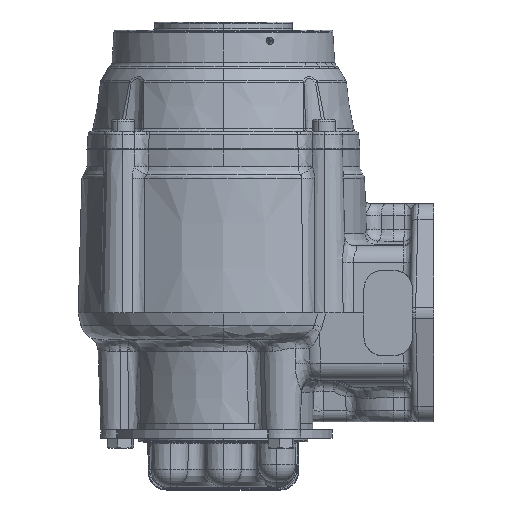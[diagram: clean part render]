
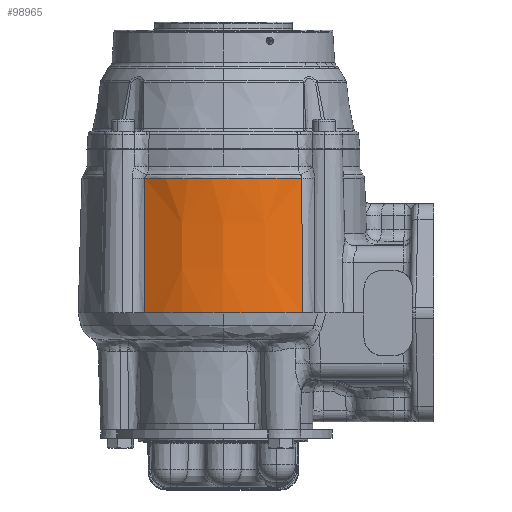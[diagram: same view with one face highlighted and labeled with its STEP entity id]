
A CAD part, left-side view. The second image highlights one B-rep face of the part: STEP entity #98965.
In plain terms, the highlighted conical face has half-angle 1.5 degrees and reference radius 76.073 mm.
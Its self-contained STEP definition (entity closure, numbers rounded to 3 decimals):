
#302 = ORIENTED_EDGE ( 'NONE', *, *, #74298, .F. ) ;
#3682 = DIRECTION ( 'NONE',  ( 1., 0., 0. ) ) ;
#5185 = CARTESIAN_POINT ( 'NONE',  ( 0.588, 151.447, 199.328 ) ) ;
#5788 = CARTESIAN_POINT ( 'NONE',  ( -0.79, 151.556, 153.156 ) ) ;
#7044 = DIRECTION ( 'NONE',  ( 0., 0., -1. ) ) ;
#15660 = CIRCLE ( 'NONE', #102587, 76.073 ) ;
#23698 = AXIS2_PLACEMENT_3D ( 'NONE', #80034, #43186, #34130 ) ;
#31496 = B_SPLINE_CURVE_WITH_KNOTS ( 'NONE', 3,
 ( #59859, #56467, #66116, #49617 ),
 .UNSPECIFIED., .F., .F.,
 ( 4, 4 ),
 ( 0., 1. ),
 .UNSPECIFIED. ) ;
#32201 = CARTESIAN_POINT ( 'NONE',  ( -13.72, 110.284, 128.76 ) ) ;
#34130 = DIRECTION ( 'NONE',  ( -1., 0., 0. ) ) ;
#35784 = AXIS2_PLACEMENT_3D ( 'NONE', #38001, #85104, #74254 ) ;
#38001 = CARTESIAN_POINT ( 'NONE',  ( 62.353, 110.284, 128.76 ) ) ;
#41554 = DIRECTION ( 'NONE',  ( 1., 0., 0. ) ) ;
#42683 = CARTESIAN_POINT ( 'NONE',  ( -1.507, 151.624, 128.76 ) ) ;
#43186 = DIRECTION ( 'NONE',  ( 0., 0., -1. ) ) ;
#46627 = VERTEX_POINT ( 'NONE', #83650 ) ;
#48178 = CARTESIAN_POINT ( 'NONE',  ( 0.588, 69.121, 199.328 ) ) ;
#49617 = CARTESIAN_POINT ( 'NONE',  ( 0.588, 69.121, 199.328 ) ) ;
#56467 = CARTESIAN_POINT ( 'NONE',  ( -0.79, 69.012, 153.156 ) ) ;
#58712 = CARTESIAN_POINT ( 'NONE',  ( 62.353, 110.284, 128.76 ) ) ;
#59859 = CARTESIAN_POINT ( 'NONE',  ( -1.507, 68.944, 128.76 ) ) ;
#62069 = CARTESIAN_POINT ( 'NONE',  ( 62.353, 110.284, 128.76 ) ) ;
#62272 = CIRCLE ( 'NONE', #23698, 74.225 ) ;
#66116 = CARTESIAN_POINT ( 'NONE',  ( -0.092, 69.071, 176.678 ) ) ;
#68089 = CARTESIAN_POINT ( 'NONE',  ( -0.092, 151.497, 176.679 ) ) ;
#68676 = CARTESIAN_POINT ( 'NONE',  ( 0.588, 151.447, 199.328 ) ) ;
#69605 = AXIS2_PLACEMENT_3D ( 'NONE', #62069, #7044, #41554 ) ;
#70374 = EDGE_CURVE ( 'NONE', #46627, #82126, #88937, .T. ) ;
#72931 = VERTEX_POINT ( 'NONE', #104942 ) ;
#73613 = EDGE_CURVE ( 'NONE', #73621, #72931, #115115, .T. ) ;
#73621 = VERTEX_POINT ( 'NONE', #5185 ) ;
#74254 = DIRECTION ( 'NONE',  ( 0., 1., 0. ) ) ;
#74298 = EDGE_CURVE ( 'NONE', #82126, #72931, #15660, .T. ) ;
#77437 = EDGE_CURVE ( 'NONE', #119344, #73621, #62272, .T. ) ;
#80034 = CARTESIAN_POINT ( 'NONE',  ( 62.353, 110.284, 199.328 ) ) ;
#81962 = ORIENTED_EDGE ( 'NONE', *, *, #73613, .T. ) ;
#82126 = VERTEX_POINT ( 'NONE', #32201 ) ;
#83650 = CARTESIAN_POINT ( 'NONE',  ( -1.507, 68.944, 128.76 ) ) ;
#85104 = DIRECTION ( 'NONE',  ( 0., 0., -1. ) ) ;
#88937 = CIRCLE ( 'NONE', #69605, 76.073 ) ;
#94152 = ORIENTED_EDGE ( 'NONE', *, *, #105584, .T. ) ;
#95647 = CONICAL_SURFACE ( 'NONE', #35784, 76.073, 0.026 ) ;
#96187 = DIRECTION ( 'NONE',  ( 0., 0., -1. ) ) ;
#98965 = ADVANCED_FACE ( 'NONE', ( #110515 ), #95647, .T. ) ;
#99462 = EDGE_LOOP ( 'NONE', ( #107629, #94152, #119531, #81962, #302 ) ) ;
#102587 = AXIS2_PLACEMENT_3D ( 'NONE', #58712, #96187, #3682 ) ;
#104942 = CARTESIAN_POINT ( 'NONE',  ( -1.507, 151.624, 128.76 ) ) ;
#105584 = EDGE_CURVE ( 'NONE', #46627, #119344, #31496, .T. ) ;
#107629 = ORIENTED_EDGE ( 'NONE', *, *, #70374, .F. ) ;
#110515 = FACE_OUTER_BOUND ( 'NONE', #99462, .T. ) ;
#115115 = B_SPLINE_CURVE_WITH_KNOTS ( 'NONE', 3,
 ( #68676, #68089, #5788, #42683 ),
 .UNSPECIFIED., .F., .F.,
 ( 4, 4 ),
 ( 0., 1. ),
 .UNSPECIFIED. ) ;
#119344 = VERTEX_POINT ( 'NONE', #48178 ) ;
#119531 = ORIENTED_EDGE ( 'NONE', *, *, #77437, .T. ) ;
